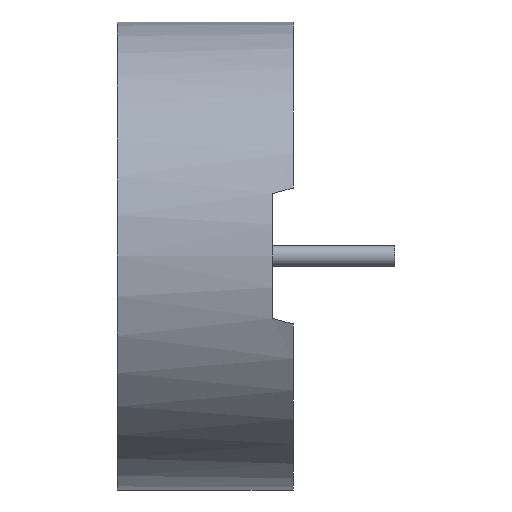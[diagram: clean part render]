
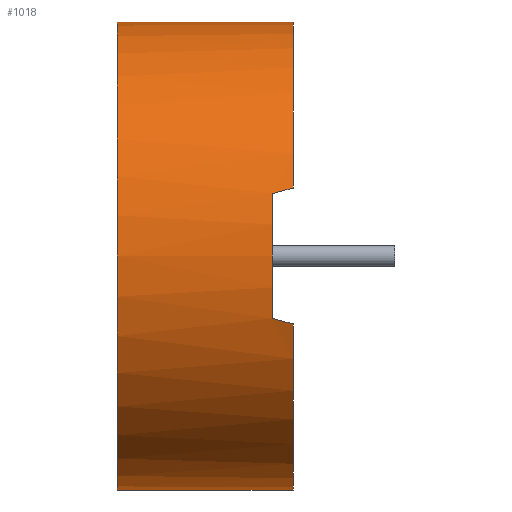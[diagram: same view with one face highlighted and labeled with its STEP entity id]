
A CAD part, left-side view. The second image highlights one B-rep face of the part: STEP entity #1018.
In plain terms, the highlighted cylindrical face has radius 14.287 mm (diameter 28.575 mm), a partial arc.
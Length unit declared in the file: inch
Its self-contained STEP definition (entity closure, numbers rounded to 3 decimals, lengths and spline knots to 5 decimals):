
#11 = VERTEX_POINT ( 'NONE', #236 ) ;
#48 = VERTEX_POINT ( 'NONE', #650 ) ;
#75 = DIRECTION ( 'NONE',  ( 0., 0., 1. ) ) ;
#76 = CARTESIAN_POINT ( 'NONE',  ( 0., 0., 0. ) ) ;
#78 = DIRECTION ( 'NONE',  ( 0., 1., 0. ) ) ;
#79 = CARTESIAN_POINT ( 'NONE',  ( 0., 0.423, 0. ) ) ;
#81 = EDGE_CURVE ( 'NONE', #272, #11, #242, .T. ) ;
#215 = VECTOR ( 'NONE', #1119, 39.37008 ) ;
#236 = CARTESIAN_POINT ( 'NONE',  ( 0., 0., -0.5625 ) ) ;
#242 = LINE ( 'NONE', #928, #215 ) ;
#248 = AXIS2_PLACEMENT_3D ( 'NONE', #873, #280, #278 ) ;
#256 = AXIS2_PLACEMENT_3D ( 'NONE', #76, #1168, #590 ) ;
#265 = CARTESIAN_POINT ( 'NONE',  ( 0., 0.423, 0. ) ) ;
#272 = VERTEX_POINT ( 'NONE', #1019 ) ;
#277 = EDGE_LOOP ( 'NONE', ( #554, #1248, #334, #844, #1003, #695, #550, #1282 ) ) ;
#278 = DIRECTION ( 'NONE',  ( 0., 0., 1. ) ) ;
#280 = DIRECTION ( 'NONE',  ( 0., 1., 0. ) ) ;
#284 = DIRECTION ( 'NONE',  ( 0., 0., -1. ) ) ;
#286 = DIRECTION ( 'NONE',  ( 0., -1., 0. ) ) ;
#288 = VERTEX_POINT ( 'NONE', #960 ) ;
#314 = EDGE_CURVE ( 'NONE', #11, #1240, #1155, .T. ) ;
#334 = ORIENTED_EDGE ( 'NONE', *, *, #81, .T. ) ;
#405 = CARTESIAN_POINT ( 'NONE',  ( -0.53824, 0., 0.1634 ) ) ;
#414 = EDGE_CURVE ( 'NONE', #1283, #677, #1118, .T. ) ;
#426 = EDGE_CURVE ( 'NONE', #647, #677, #616, .T. ) ;
#491 = EDGE_CURVE ( 'NONE', #48, #1283, #1261, .T. ) ;
#550 = ORIENTED_EDGE ( 'NONE', *, *, #491, .T. ) ;
#554 = ORIENTED_EDGE ( 'NONE', *, *, #426, .F. ) ;
#581 = EDGE_CURVE ( 'NONE', #1240, #288, #892, .T. ) ;
#590 = DIRECTION ( 'NONE',  ( 0., 0., 1. ) ) ;
#616 = LINE ( 'NONE', #630, #1111 ) ;
#630 = CARTESIAN_POINT ( 'NONE',  ( 0., 0.423, 0.5625 ) ) ;
#638 = AXIS2_PLACEMENT_3D ( 'NONE', #79, #78, #75 ) ;
#647 = VERTEX_POINT ( 'NONE', #768 ) ;
#648 = DIRECTION ( 'NONE',  ( 0., -1., 0. ) ) ;
#650 = CARTESIAN_POINT ( 'NONE',  ( -0.54213, 0.05, 0.15 ) ) ;
#654 = CARTESIAN_POINT ( 'NONE',  ( -0.54089, 0.03327, 0.15448 ) ) ;
#658 = CARTESIAN_POINT ( 'NONE',  ( -0.54213, 0.05, 0.15 ) ) ;
#672 = CARTESIAN_POINT ( 'NONE',  ( -0.53824, 0., 0.1634 ) ) ;
#673 = CARTESIAN_POINT ( 'NONE',  ( -0.5396, 0.01661, 0.15895 ) ) ;
#677 = VERTEX_POINT ( 'NONE', #731 ) ;
#684 = AXIS2_PLACEMENT_3D ( 'NONE', #265, #286, #284 ) ;
#695 = ORIENTED_EDGE ( 'NONE', *, *, #950, .T. ) ;
#731 = CARTESIAN_POINT ( 'NONE',  ( 0., 0., 0.5625 ) ) ;
#768 = CARTESIAN_POINT ( 'NONE',  ( 0., 0.423, 0.5625 ) ) ;
#783 = CARTESIAN_POINT ( 'NONE',  ( -0.5396, 0.01661, -0.15895 ) ) ;
#790 = CARTESIAN_POINT ( 'NONE',  ( -0.54213, 0.05, -0.15 ) ) ;
#791 = EDGE_CURVE ( 'NONE', #272, #647, #884, .T. ) ;
#792 = CARTESIAN_POINT ( 'NONE',  ( -0.54089, 0.03327, -0.15448 ) ) ;
#798 = CARTESIAN_POINT ( 'NONE',  ( -0.53824, 0., -0.1634 ) ) ;
#844 = ORIENTED_EDGE ( 'NONE', *, *, #314, .T. ) ;
#872 = CIRCLE ( 'NONE', #248, 0.5625 ) ;
#873 = CARTESIAN_POINT ( 'NONE',  ( 0., 0.05, 0. ) ) ;
#884 = CIRCLE ( 'NONE', #638, 0.5625 ) ;
#892 =( BOUNDED_CURVE ( )  B_SPLINE_CURVE ( 3, ( #798, #783, #792, #790 ),
 .UNSPECIFIED., .F., .T. ) 
 B_SPLINE_CURVE_WITH_KNOTS ( ( 4, 4 ),
 ( 1.27606, 1.30086 ),
 .UNSPECIFIED. ) 
 CURVE ( )  GEOMETRIC_REPRESENTATION_ITEM ( )  RATIONAL_B_SPLINE_CURVE ( ( 1., 1., 1., 1. ) ) 
 REPRESENTATION_ITEM ( '' )  );
#918 = CARTESIAN_POINT ( 'NONE',  ( -0.53824, 0., -0.1634 ) ) ;
#928 = CARTESIAN_POINT ( 'NONE',  ( 0., 0.423, -0.5625 ) ) ;
#950 = EDGE_CURVE ( 'NONE', #288, #48, #872, .T. ) ;
#955 = DIRECTION ( 'NONE',  ( 0., 0., 1. ) ) ;
#957 = DIRECTION ( 'NONE',  ( 0., 1., 0. ) ) ;
#958 = CARTESIAN_POINT ( 'NONE',  ( 0., 0., 0. ) ) ;
#960 = CARTESIAN_POINT ( 'NONE',  ( -0.54213, 0.05, -0.15 ) ) ;
#977 = FACE_OUTER_BOUND ( 'NONE', #277, .T. ) ;
#1003 = ORIENTED_EDGE ( 'NONE', *, *, #581, .T. ) ;
#1018 = ADVANCED_FACE ( 'NONE', ( #977 ), #1044, .T. ) ;
#1019 = CARTESIAN_POINT ( 'NONE',  ( 0., 0.423, -0.5625 ) ) ;
#1044 = CYLINDRICAL_SURFACE ( 'NONE', #684, 0.5625 ) ;
#1080 = AXIS2_PLACEMENT_3D ( 'NONE', #958, #957, #955 ) ;
#1111 = VECTOR ( 'NONE', #648, 39.37008 ) ;
#1118 = CIRCLE ( 'NONE', #256, 0.5625 ) ;
#1119 = DIRECTION ( 'NONE',  ( 0., -1., 0. ) ) ;
#1155 = CIRCLE ( 'NONE', #1080, 0.5625 ) ;
#1168 = DIRECTION ( 'NONE',  ( 0., 1., 0. ) ) ;
#1240 = VERTEX_POINT ( 'NONE', #918 ) ;
#1248 = ORIENTED_EDGE ( 'NONE', *, *, #791, .F. ) ;
#1261 =( BOUNDED_CURVE ( )  B_SPLINE_CURVE ( 3, ( #658, #654, #673, #672 ),
 .UNSPECIFIED., .F., .T. ) 
 B_SPLINE_CURVE_WITH_KNOTS ( ( 4, 4 ),
 ( 4.98232, 5.00713 ),
 .UNSPECIFIED. ) 
 CURVE ( )  GEOMETRIC_REPRESENTATION_ITEM ( )  RATIONAL_B_SPLINE_CURVE ( ( 1., 1., 1., 1. ) ) 
 REPRESENTATION_ITEM ( '' )  );
#1282 = ORIENTED_EDGE ( 'NONE', *, *, #414, .T. ) ;
#1283 = VERTEX_POINT ( 'NONE', #405 ) ;
